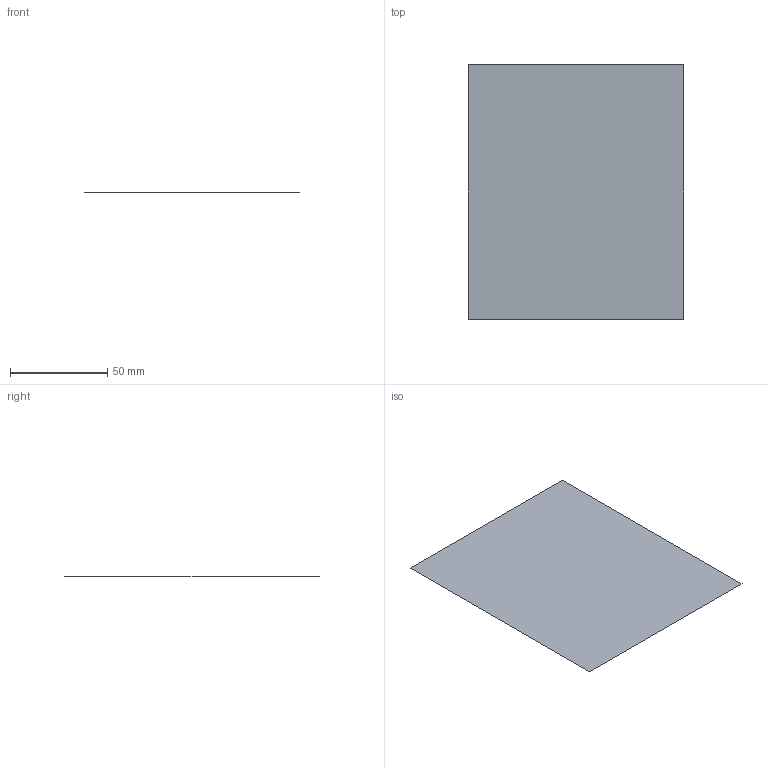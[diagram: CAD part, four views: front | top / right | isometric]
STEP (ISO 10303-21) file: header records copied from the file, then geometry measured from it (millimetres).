
FILE_DESCRIPTION(('CATIA V5 STEP Exchange'),'2;1');
FILE_NAME('C:\_Andres\UNIVERSIDAD\IQS\ASIGNATURAS\DAO\EXF\EXF-15161c\1original\Ripoll_Piera_Ej06-calculo_v21.stp','2016-03-04T20:57:43+00:00',('none'),('none'),'CATIA Version 5 Release 20 SP 1 (IN-10)','CATIA V5 STEP AP203','none');
FILE_SCHEMA(('CONFIG_CONTROL_DESIGN'));
Length unit declared in the file: millimetre
Products named in the file (1): Ripoll_Piera_Ej06-calculo_v21
Bounding box: 111 x 131 x 0 mm (x, y, z)
Surface area: 14541 mm2 (no closed solid volume)
Topology: 0 solids, 1 shells, 1 faces, 8 edges, 9 vertices
Faces by surface type: plane 1
Entity records: 130 total; most frequent: CARTESIAN_POINT 23, DIRECTION 12, VECTOR 8, LINE 8, COMPOSITE_CURVE_SEGMENT 4, ORIENTED_EDGE 4, CC_DESIGN_PERSON_AND_ORGANIZATION_ASSIGNMENT 4, PERSON_AND_ORGANIZATION_ROLE 4
